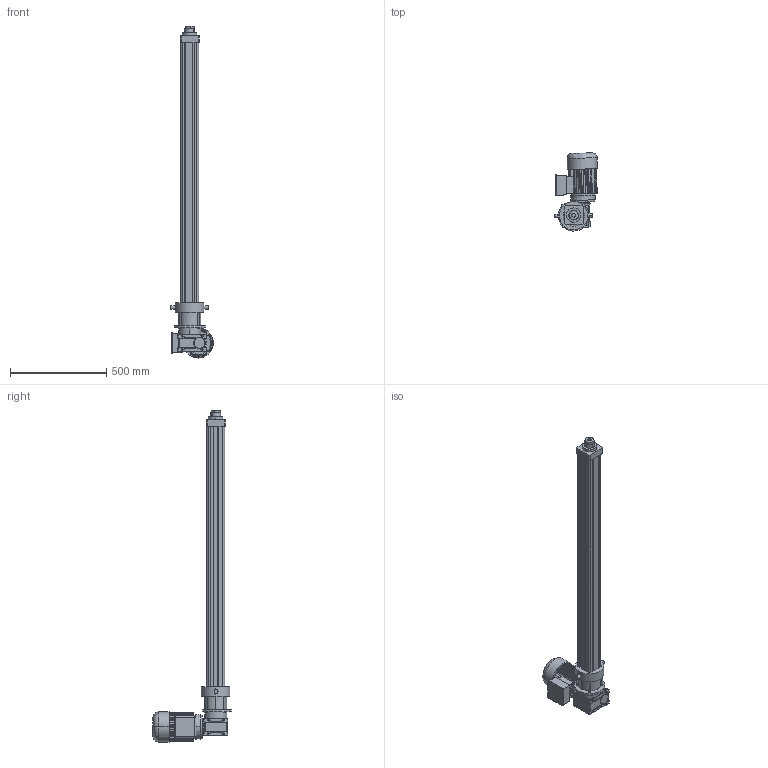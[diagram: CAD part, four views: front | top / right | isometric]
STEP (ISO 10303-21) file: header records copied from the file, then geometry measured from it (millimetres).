
FILE_DESCRIPTION (( 'STEP AP214' ), '1' );
FILE_NAME ('Ass RV80 BI C1200.STEP', '2017-01-03T16:22:45', ( 'Hubert' ), ( '' ), 'SwSTEP 2.0', 'SolidWorks 2014', '' );
FILE_SCHEMA (( 'AUTOMOTIVE_DESIGN' ));
Length unit declared in the file: millimetre
Products named in the file (9): Ass CHM50_FC MOT 80 F; _AT_80_B_2_1,10_B14_F_230-400-50_DC-S.3d; _CHM_50_FC_2_7,5_80_B14_B3.3d; Tube MR 80 BI C1200; PAAV 80 D; Profilé MRRV80 BI C1200; Vis MRRV80 BI C1200; PAAR RV 80 B160; Ass RV80 BI C1200
Assembly tree (8 placements, depth 3):
  Ass RV80 BI C1200
    PAAR RV 80 B160
    Vis MRRV80 BI C1200
    Profilé MRRV80 BI C1200
    PAAV 80 D
    Tube MR 80 BI C1200
    Ass CHM50_FC MOT 80 F
      _CHM_50_FC_2_7,5_80_B14_B3.3d
      _AT_80_B_2_1,10_B14_F_230-400-50_DC-S.3d
Bounding box: 222.36 x 405.94 x 1722 mm (x, y, z)
Volume: 12487810.2 mm3; surface area: 2361372.8 mm2
Topology: 7 solids, 11 shells, 833 faces, 2164 edges, 1391 vertices
Faces by surface type: plane 422, cylinder 382, cone 22, bspline 7
Entity records: 34432 total; most frequent: CARTESIAN_POINT 4908, DIRECTION 4660, ORIENTED_EDGE 4288, EDGE_CURVE 2144, AXIS2_PLACEMENT_3D 1689, VERTEX_POINT 1391, LINE 1282, VECTOR 1282
